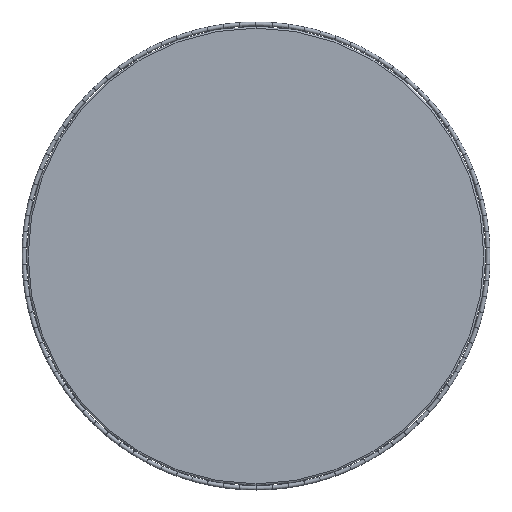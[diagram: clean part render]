
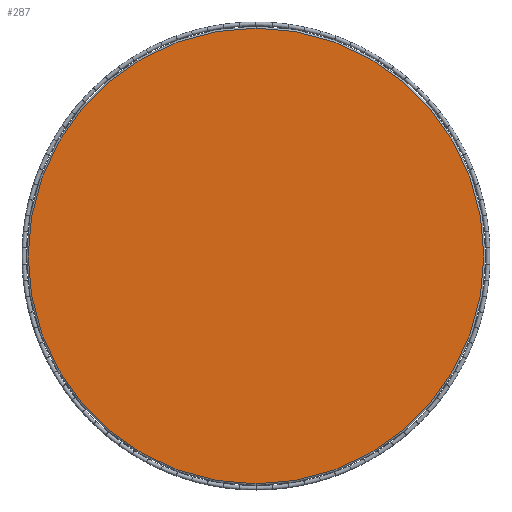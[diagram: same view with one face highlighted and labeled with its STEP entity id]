
A CAD part, front view. The second image highlights one B-rep face of the part: STEP entity #287.
In plain terms, the highlighted planar face has unit normal (0, -1, 0).
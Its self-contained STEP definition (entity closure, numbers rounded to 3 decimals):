
#56 = VERTEX_POINT ( 'NONE', #2772 ) ;
#287 = ADVANCED_FACE ( 'NONE', ( #1460 ), #2690, .F. ) ;
#303 = ORIENTED_EDGE ( 'NONE', *, *, #2906, .T. ) ;
#429 = AXIS2_PLACEMENT_3D ( 'NONE', #3241, #693, #3198 ) ;
#693 = DIRECTION ( 'NONE',  ( 0., -1., 0. ) ) ;
#767 = CIRCLE ( 'NONE', #429, 390.5 ) ;
#953 = CIRCLE ( 'NONE', #2619, 390.5 ) ;
#957 = AXIS2_PLACEMENT_3D ( 'NONE', #1739, #1152, #2428 ) ;
#1019 = CARTESIAN_POINT ( 'NONE',  ( 0., -2.9, 0. ) ) ;
#1152 = DIRECTION ( 'NONE',  ( 0., 1., 0. ) ) ;
#1188 = CARTESIAN_POINT ( 'NONE',  ( 0., -2.9, -390.5 ) ) ;
#1289 = DIRECTION ( 'NONE',  ( 0., 0., -1. ) ) ;
#1460 = FACE_OUTER_BOUND ( 'NONE', #3809, .T. ) ;
#1602 = DIRECTION ( 'NONE',  ( 0., -1., 0. ) ) ;
#1739 = CARTESIAN_POINT ( 'NONE',  ( 0., -2.9, 0. ) ) ;
#2014 = EDGE_CURVE ( 'NONE', #3141, #56, #767, .T. ) ;
#2276 = ORIENTED_EDGE ( 'NONE', *, *, #2014, .T. ) ;
#2428 = DIRECTION ( 'NONE',  ( 0., 0., 1. ) ) ;
#2619 = AXIS2_PLACEMENT_3D ( 'NONE', #1019, #1602, #1289 ) ;
#2690 = PLANE ( 'NONE',  #957 ) ;
#2772 = CARTESIAN_POINT ( 'NONE',  ( 0., -2.9, 390.5 ) ) ;
#2906 = EDGE_CURVE ( 'NONE', #56, #3141, #953, .T. ) ;
#3141 = VERTEX_POINT ( 'NONE', #1188 ) ;
#3198 = DIRECTION ( 'NONE',  ( 0., 0., -1. ) ) ;
#3241 = CARTESIAN_POINT ( 'NONE',  ( 0., -2.9, 0. ) ) ;
#3809 = EDGE_LOOP ( 'NONE', ( #2276, #303 ) ) ;
